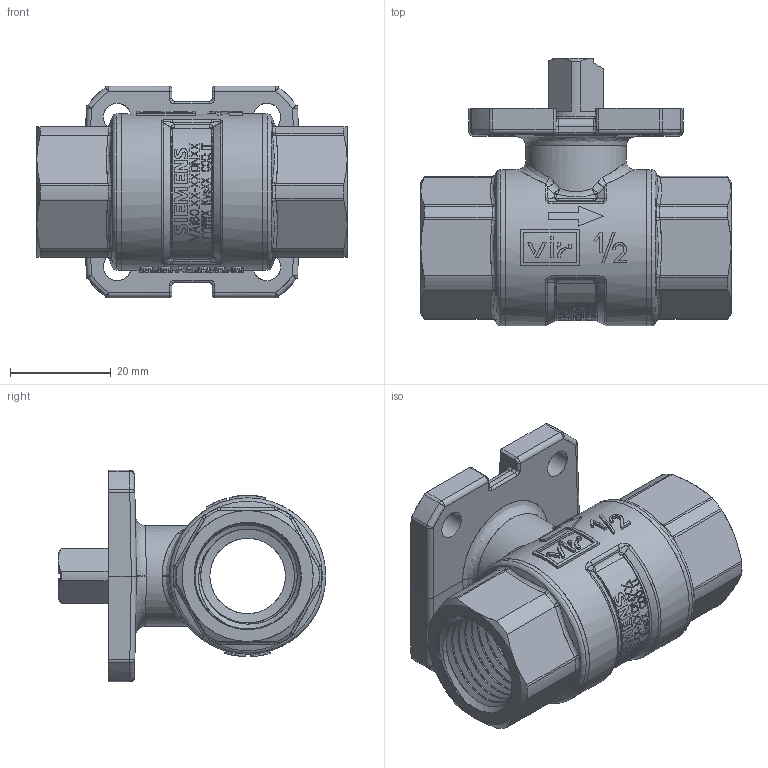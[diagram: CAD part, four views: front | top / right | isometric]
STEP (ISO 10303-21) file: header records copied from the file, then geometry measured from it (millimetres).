
FILE_DESCRIPTION(/* description */ (''),/* implementation_level */ '2;1');
FILE_NAME(/* name */ 'model6.stp',/* time_stamp */ '2013-10-28T15:21:08+01:00',/* author */ (''),/* organization */ (''),/* preprocessor_version */ 'ST-DEVELOPER v11',/* originating_system */ 'SIEMENS UGS NX 6.0',/* authorisation */ '');
FILE_SCHEMA (('AUTOMOTIVE_DESIGN { 1 0 10303 214 1 1 1 1 }'));
Products named in the file (1): z002B8BFdrrd
Bounding box: 61.6 x 53.1 x 42 mm (x, y, z)
Surface area: 31235 mm2 (no closed solid volume)
Topology: 0 solids, 1836 shells, 1836 faces, 15641 edges, 15545 vertices
Faces by surface type: plane 1330, cylinder 257, bspline 138, cone 53, torus 47, sphere 11
Full cylindrical faces by diameter (mm): 5.5 x4, 8.2 x2, 11 x3, 11.1 x1, 11.3 x1, 14.5 x2, 14.9 x1, 15 x5, 18.3 x2, 18.5 x2, 18.63 x14, 20 x1, 20.9 x2, 20.955 x2, 21 x2, 25 x1, 25.288 x2, 25.5 x4, 27 x8, 27.4 x2, 31 x3
Entity records: 194890 total; most frequent: CARTESIAN_POINT 93348, VERTEX_POINT 15545, ORIENTED_EDGE 15543, EDGE_CURVE 15543, B_SPLINE_CURVE_WITH_KNOTS 10585, DIRECTION 9156, LINE 3484, VECTOR 3484
